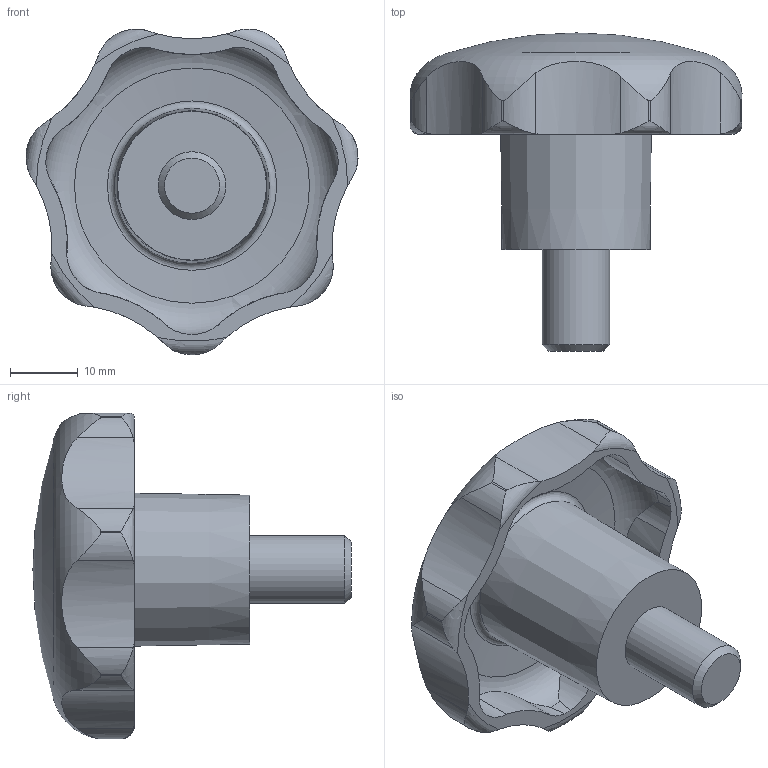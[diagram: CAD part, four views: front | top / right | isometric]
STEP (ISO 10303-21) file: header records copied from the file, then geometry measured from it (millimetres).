
FILE_DESCRIPTION( ( 'STEP AP203' ), '1' );
FILE_NAME( 'C:/Temp/Ganter_Step_05_03_2020/data/2_2/gn_6336_4/gn_6336_4_st/Star knob GN 6336.4-ST-50-M10-15.stp', '2020-03-05T12:07:35', ( 'License CC BY-ND 4.0' ), ( 'CADENAS' ), ' ', 'PARTsolutions', ' ' );
FILE_SCHEMA( ( 'CONFIG_CONTROL_DESIGN' ) );
Length unit declared in the file: millimetre
Products named in the file (1): _Star knob GN 6336.4-ST-50-M10-15
Bounding box: 49.04 x 47 x 48.12 mm (x, y, z)
Volume: 22326 mm3; surface area: 7920.6 mm2
Topology: 1 solids, 1 shells, 74 faces, 209 edges, 138 vertices
Faces by surface type: cylinder 50, torus 10, cone 10, plane 3, sphere 1
Full cylindrical faces by diameter (mm): 10 x1
Entity records: 3234 total; most frequent: CARTESIAN_POINT 1425, ORIENTED_EDGE 394, DIRECTION 334, EDGE_CURVE 197, AXIS2_PLACEMENT_3D 146, VERTEX_POINT 135, B_SPLINE_CURVE_WITH_KNOTS 84, EDGE_LOOP 83
